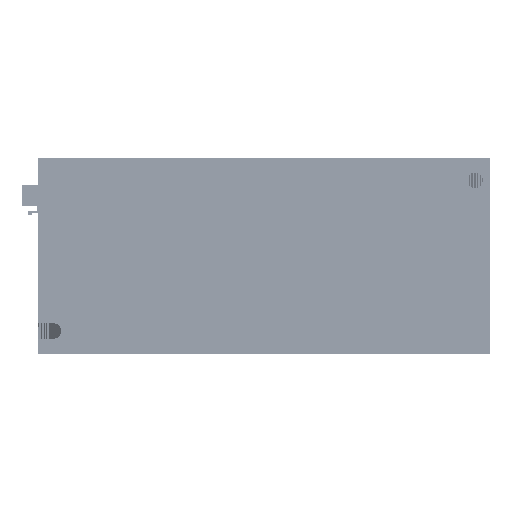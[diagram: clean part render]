
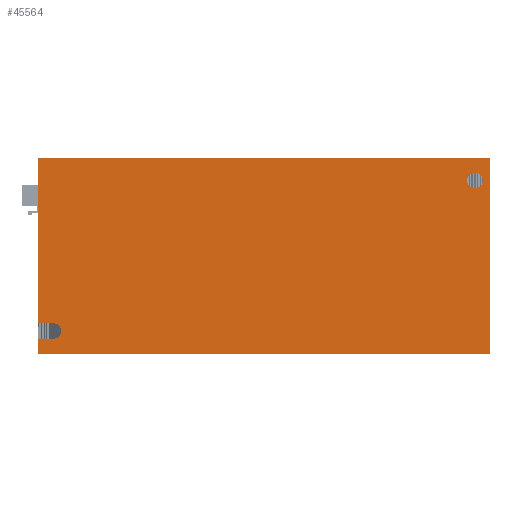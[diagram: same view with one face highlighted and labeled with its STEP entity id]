
A CAD part, top view. The second image highlights one B-rep face of the part: STEP entity #45564.
In plain terms, the highlighted planar face has unit normal (0, 0, 1).
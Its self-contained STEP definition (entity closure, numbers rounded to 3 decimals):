
#13199=DIRECTION('',(-1.,0.,0.));
#13200=VECTOR('',#13199,150.);
#13201=CARTESIAN_POINT('',(44.414,33.069,258.));
#13202=LINE('',#13201,#13200);
#15295=DIRECTION('',(0.,-1.,0.));
#15296=VECTOR('',#15295,65.);
#15297=CARTESIAN_POINT('',(44.414,33.069,258.));
#15298=LINE('',#15297,#15296);
#15299=CARTESIAN_POINT('',(-100.586,-24.431,258.));
#15300=DIRECTION('',(0.,0.,1.));
#15301=DIRECTION('',(0.,-1.,0.));
#15302=AXIS2_PLACEMENT_3D('',#15299,#15300,#15301);
#15304=CARTESIAN_POINT('',(-100.586,-24.431,258.));
#15305=DIRECTION('',(0.,0.,1.));
#15306=DIRECTION('',(1.,0.,0.));
#15307=AXIS2_PLACEMENT_3D('',#15304,#15305,#15306);
#15309=DIRECTION('',(-1.,0.,0.));
#15310=VECTOR('',#15309,5.);
#15311=CARTESIAN_POINT('',(-100.586,-21.831,258.));
#15312=LINE('',#15311,#15310);
#15313=DIRECTION('',(0.,1.,0.));
#15314=VECTOR('',#15313,54.9);
#15315=CARTESIAN_POINT('',(-105.586,-21.831,258.));
#15316=LINE('',#15315,#15314);
#15317=CARTESIAN_POINT('',(39.414,25.569,258.));
#15318=DIRECTION('',(0.,0.,1.));
#15319=DIRECTION('',(1.,0.,0.));
#15320=AXIS2_PLACEMENT_3D('',#15317,#15318,#15319);
#15322=CARTESIAN_POINT('',(39.414,25.569,258.));
#15323=DIRECTION('',(0.,0.,1.));
#15324=DIRECTION('',(-1.,0.,0.));
#15325=AXIS2_PLACEMENT_3D('',#15322,#15323,#15324);
#15327=DIRECTION('',(1.,0.,0.));
#15328=VECTOR('',#15327,150.);
#15329=CARTESIAN_POINT('',(-105.586,-31.931,258.));
#15330=LINE('',#15329,#15328);
#15387=DIRECTION('',(-1.,0.,0.));
#15388=VECTOR('',#15387,5.);
#15389=CARTESIAN_POINT('',(-100.586,-27.031,258.));
#15390=LINE('',#15389,#15388);
#15391=DIRECTION('',(0.,1.,0.));
#15392=VECTOR('',#15391,4.9);
#15393=CARTESIAN_POINT('',(-105.586,-31.931,258.));
#15394=LINE('',#15393,#15392);
#24657=CARTESIAN_POINT('',(-105.586,-21.831,258.));
#24658=CARTESIAN_POINT('',(-105.586,33.069,258.));
#24659=VERTEX_POINT('',#24657);
#24660=VERTEX_POINT('',#24658);
#25206=CARTESIAN_POINT('',(44.414,33.069,258.));
#25207=VERTEX_POINT('',#25206);
#25208=CARTESIAN_POINT('',(44.414,-31.931,258.));
#25209=VERTEX_POINT('',#25208);
#25797=CARTESIAN_POINT('',(-97.986,-24.431,258.));
#25798=VERTEX_POINT('',#25797);
#25799=CARTESIAN_POINT('',(-100.586,-27.031,258.));
#25800=VERTEX_POINT('',#25799);
#25801=CARTESIAN_POINT('',(-100.586,-21.831,258.));
#25802=VERTEX_POINT('',#25801);
#25803=CARTESIAN_POINT('',(-105.586,-27.031,258.));
#25804=VERTEX_POINT('',#25803);
#25805=CARTESIAN_POINT('',(-105.586,-31.931,258.));
#25806=VERTEX_POINT('',#25805);
#25807=CARTESIAN_POINT('',(42.014,25.569,258.));
#25808=CARTESIAN_POINT('',(36.814,25.569,258.));
#25809=VERTEX_POINT('',#25807);
#25810=VERTEX_POINT('',#25808);
#45536=CARTESIAN_POINT('',(-30.586,0.569,258.));
#45537=DIRECTION('',(0.,0.,1.));
#45538=DIRECTION('',(-1.,0.,0.));
#45539=AXIS2_PLACEMENT_3D('',#45536,#45537,#45538);
#45540=PLANE('',#45539);
#45541=ORIENTED_EDGE('',*,*,#43012,.F.);
#45542=ORIENTED_EDGE('',*,*,#35131,.T.);
#45544=ORIENTED_EDGE('',*,*,#45543,.F.);
#45546=ORIENTED_EDGE('',*,*,#45545,.T.);
#45548=ORIENTED_EDGE('',*,*,#45547,.F.);
#45550=ORIENTED_EDGE('',*,*,#45549,.T.);
#45552=ORIENTED_EDGE('',*,*,#45551,.T.);
#45554=ORIENTED_EDGE('',*,*,#45553,.T.);
#45555=ORIENTED_EDGE('',*,*,#31560,.T.);
#45556=EDGE_LOOP('',(#45541,#45542,#45544,#45546,#45548,#45550,#45552,#45554,
#45555));
#45557=FACE_OUTER_BOUND('',#45556,.F.);
#45559=ORIENTED_EDGE('',*,*,#45558,.T.);
#45561=ORIENTED_EDGE('',*,*,#45560,.T.);
#45562=EDGE_LOOP('',(#45559,#45561));
#45563=FACE_BOUND('',#45562,.F.);
#45564=ADVANCED_FACE('',(#45557,#45563),#45540,.T.);
#15303=CIRCLE('',#15302,2.6);
#15308=CIRCLE('',#15307,2.6);
#15321=CIRCLE('',#15320,2.6);
#15326=CIRCLE('',#15325,2.6);
#31560=EDGE_CURVE('',#24659,#24660,#15316,.T.);
#35131=EDGE_CURVE('',#25207,#25209,#15298,.T.);
#43012=EDGE_CURVE('',#25207,#24660,#13202,.T.);
#45543=EDGE_CURVE('',#25806,#25209,#15330,.T.);
#45545=EDGE_CURVE('',#25806,#25804,#15394,.T.);
#45547=EDGE_CURVE('',#25800,#25804,#15390,.T.);
#45549=EDGE_CURVE('',#25800,#25798,#15303,.T.);
#45551=EDGE_CURVE('',#25798,#25802,#15308,.T.);
#45553=EDGE_CURVE('',#25802,#24659,#15312,.T.);
#45558=EDGE_CURVE('',#25809,#25810,#15321,.T.);
#45560=EDGE_CURVE('',#25810,#25809,#15326,.T.);
